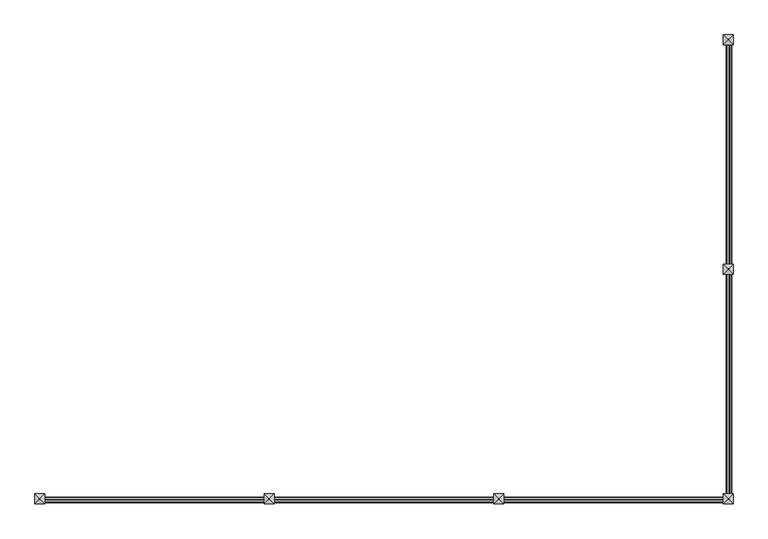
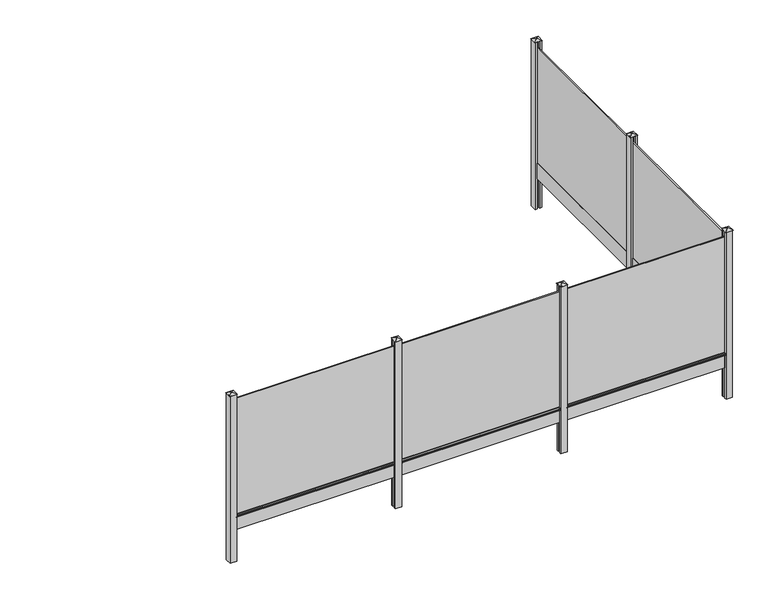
"""IFC4 building model written with IfcOpenShell, lengths in millimetres: railing geometry, Mehat - Railing - Plaque de Soubassement - Classique pour clôture rigide - 252.5x25x3.8/1.9 cm."""

from ifc_helpers import new_model, si_unit, point, frame, frame_2d, origin, origin_with_axes, place, context, project, spatial, polyline, circle_curve, trimmed, segment, composite_curve, outline, extrude, faceted_brep, source, transform, mapped, element, save


def railing_a6160d3a(model_context):
    return source(origin(), model_context, "Body", "SolidModel", [
        extrude(outline(polyline([(154896.2516516, -11002.4943936), (154879.2516516, -11002.4943936), (154879.2516516, -8477.4943936), (154896.2516516, -8477.4943936), (154896.2516516, -11002.4943936)])), frame((0.0, 0.0, 250.0), z_axis=(0.0, 0.0, 1.0), x_axis=(1.0, 0.0, 0.0)), (0.0, 0.0, 1.0), 1900.0),
        extrude(outline(polyline([(154868.7516516, -8477.4943936), (154887.7516516, -8477.4943936), (154906.7516516, -8502.4943936), (154906.7516516, -10977.4943936), (154887.7516516, -11002.4943936), (154868.7516516, -11002.4943936), (154868.7516516, -8477.4943936)])), origin_with_axes(), (0.0, 0.0, 1.0), 250.0),
        extrude(outline(composite_curve([segment(polyline([(210.0, 154906.7516516), (217.1937129, 154928.3327905)]), True, "CONTINUOUS"), segment(trimmed(circle_curve(frame_2d((221.9371294, 154926.7516516)), 5.0), [point((217.1937129, 154928.3327905))], [point((221.9371294, 154931.7516516))], False, "CARTESIAN"), True, "CONTINUOUS"), segment(polyline([(221.9371294, 154931.7516516), (238.0628706, 154931.7516516)]), True, "CONTINUOUS"), segment(trimmed(circle_curve(frame_2d((238.0628706, 154926.7516516)), 5.0), [point((238.0628706, 154931.7516516))], [point((242.8062871, 154928.3327905))], False, "CARTESIAN"), True, "CONTINUOUS"), segment(polyline([(242.8062871, 154928.3327905), (250.0, 154906.7516516), (210.0, 154906.7516516)]), True, "CONTINUOUS")], self_intersect=False)), frame((0.0, -10977.4943936, 0.0), z_axis=(0.0, 1.0, 0.0), x_axis=(0.0, 0.0, 1.0)), (0.0, 0.0, 1.0), 2475.0),
        extrude(outline(polyline([(154937.7516516, -11077.4943936), (154906.7516516, -11077.4943936), (154906.7516516, -11052.4943936), (154868.7516516, -11052.4943936), (154868.7516516, -11077.4943936), (154837.7516516, -11077.4943936), (154837.7516516, -10977.4943936), (154868.7516516, -10977.4943936), (154868.7516516, -11002.4943936), (154906.7516516, -11002.4943936), (154906.7516516, -10977.4943936), (154937.7516516, -10977.4943936), (154937.7516516, -11077.4943936)])), frame((0.0, 0.0, -500.0), z_axis=(0.0, 0.0, 1.0), x_axis=(1.0, 0.0, 0.0)), (0.0, 0.0, 1.0), 2750.0),
        faceted_brep([(154881.3471055, -11021.1443936, 2275.4), (154881.3471055, -11033.8443936, 2275.4), (154894.0471055, -11033.8443936, 2275.4), (154894.0471055, -11021.1443936, 2275.4), (154831.4016516, -10971.1443936, 2250.0), (154944.1016516, -10971.1443936, 2250.0), (154944.1016516, -11083.8443936, 2250.0), (154831.4016516, -11083.8443936, 2250.0)], [[[0, 1, 2, 3]], [[4, 5, 6, 7]], [[4, 0, 3, 5]], [[5, 3, 2, 6]], [[6, 2, 1, 7]], [[7, 1, 0, 4]]]),
        extrude(outline(polyline([(154896.2516516, -13577.4943936), (154879.2516516, -13577.4943936), (154879.2516516, -11052.4943936), (154896.2516516, -11052.4943936), (154896.2516516, -13577.4943936)])), frame((0.0, 0.0, 250.0), z_axis=(0.0, 0.0, 1.0), x_axis=(1.0, 0.0, 0.0)), (0.0, 0.0, 1.0), 1900.0),
        extrude(outline(polyline([(154868.7516516, -11052.4943936), (154887.7516516, -11052.4943936), (154906.7516516, -11077.4943936), (154906.7516516, -13552.4943936), (154887.7516516, -13577.4943936), (154868.7516516, -13577.4943936), (154868.7516516, -11052.4943936)])), origin_with_axes(), (0.0, 0.0, 1.0), 250.0),
        extrude(outline(composite_curve([segment(polyline([(210.0, 154906.7516516), (217.1937129, 154928.3327905)]), True, "CONTINUOUS"), segment(trimmed(circle_curve(frame_2d((221.9371294, 154926.7516516)), 5.0), [point((217.1937129, 154928.3327905))], [point((221.9371294, 154931.7516516))], False, "CARTESIAN"), True, "CONTINUOUS"), segment(polyline([(221.9371294, 154931.7516516), (238.0628706, 154931.7516516)]), True, "CONTINUOUS"), segment(trimmed(circle_curve(frame_2d((238.0628706, 154926.7516516)), 5.0), [point((238.0628706, 154931.7516516))], [point((242.8062871, 154928.3327905))], False, "CARTESIAN"), True, "CONTINUOUS"), segment(polyline([(242.8062871, 154928.3327905), (250.0, 154906.7516516), (210.0, 154906.7516516)]), True, "CONTINUOUS")], self_intersect=False)), frame((0.0, -13552.4943936, 0.0), z_axis=(0.0, 1.0, 0.0), x_axis=(0.0, 0.0, 1.0)), (0.0, 0.0, 1.0), 2475.0),
        extrude(outline(polyline([(152337.7516516, -13610.9943936), (152337.7516516, -13593.9943936), (154862.7516516, -13593.9943936), (154862.7516516, -13610.9943936), (152337.7516516, -13610.9943936)])), frame((0.0, 0.0, 250.0), z_axis=(0.0, 0.0, 1.0), x_axis=(1.0, 0.0, 0.0)), (0.0, 0.0, 1.0), 1900.0),
        extrude(outline(polyline([(154862.7516516, -13583.4943936), (154862.7516516, -13602.4943936), (154837.7516516, -13621.4943936), (152362.7516516, -13621.4943936), (152337.7516516, -13602.4943936), (152337.7516516, -13583.4943936), (154862.7516516, -13583.4943936)])), origin_with_axes(), (0.0, 0.0, 1.0), 250.0),
        extrude(outline(composite_curve([segment(polyline([(-13621.4943936, 210.0), (-13643.0755325, 217.1937129)]), True, "CONTINUOUS"), segment(trimmed(circle_curve(frame_2d((-13641.4943936, 221.9371294)), 5.0), [point((-13643.0755325, 217.1937129))], [point((-13646.4943936, 221.9371294))], False, "CARTESIAN"), True, "CONTINUOUS"), segment(polyline([(-13646.4943936, 221.9371294), (-13646.4943936, 238.0628706)]), True, "CONTINUOUS"), segment(trimmed(circle_curve(frame_2d((-13641.4943936, 238.0628706)), 5.0), [point((-13646.4943936, 238.0628706))], [point((-13643.0755325, 242.8062871))], False, "CARTESIAN"), True, "CONTINUOUS"), segment(polyline([(-13643.0755325, 242.8062871), (-13621.4943936, 250.0), (-13621.4943936, 210.0)]), True, "CONTINUOUS")], self_intersect=False)), frame((152362.7516516, 0.0, 0.0), z_axis=(1.0, 0.0, 0.0), x_axis=(0.0, 1.0, 0.0)), (0.0, 0.0, 1.0), 2475.0),
        extrude(outline(polyline([(152262.7516516, -13652.4943936), (152262.7516516, -13621.4943936), (152287.7516516, -13621.4943936), (152287.7516516, -13583.4943936), (152262.7516516, -13583.4943936), (152262.7516516, -13552.4943936), (152362.7516516, -13552.4943936), (152362.7516516, -13583.4943936), (152337.7516516, -13583.4943936), (152337.7516516, -13621.4943936), (152362.7516516, -13621.4943936), (152362.7516516, -13652.4943936), (152262.7516516, -13652.4943936)])), frame((0.0, 0.0, -500.0), z_axis=(0.0, 0.0, 1.0), x_axis=(1.0, 0.0, 0.0)), (0.0, 0.0, 1.0), 2750.0),
        faceted_brep([(152319.1016516, -13596.0898475, 2275.4), (152306.4016516, -13596.0898475, 2275.4), (152306.4016516, -13608.7898475, 2275.4), (152319.1016516, -13608.7898475, 2275.4), (152369.1016516, -13546.1443936, 2250.0), (152369.1016516, -13658.8443936, 2250.0), (152256.4016516, -13658.8443936, 2250.0), (152256.4016516, -13546.1443936, 2250.0)], [[[0, 1, 2, 3]], [[4, 5, 6, 7]], [[4, 0, 3, 5]], [[5, 3, 2, 6]], [[6, 2, 1, 7]], [[7, 1, 0, 4]]]),
        extrude(outline(polyline([(149762.7516516, -13610.9943936), (149762.7516516, -13593.9943936), (152287.7516516, -13593.9943936), (152287.7516516, -13610.9943936), (149762.7516516, -13610.9943936)])), frame((0.0, 0.0, 250.0), z_axis=(0.0, 0.0, 1.0), x_axis=(1.0, 0.0, 0.0)), (0.0, 0.0, 1.0), 1900.0),
        extrude(outline(polyline([(152287.7516516, -13583.4943936), (152287.7516516, -13602.4943936), (152262.7516516, -13621.4943936), (149787.7516516, -13621.4943936), (149762.7516516, -13602.4943936), (149762.7516516, -13583.4943936), (152287.7516516, -13583.4943936)])), origin_with_axes(), (0.0, 0.0, 1.0), 250.0),
        extrude(outline(composite_curve([segment(polyline([(-13621.4943936, 210.0), (-13643.0755325, 217.1937129)]), True, "CONTINUOUS"), segment(trimmed(circle_curve(frame_2d((-13641.4943936, 221.9371294)), 5.0), [point((-13643.0755325, 217.1937129))], [point((-13646.4943936, 221.9371294))], False, "CARTESIAN"), True, "CONTINUOUS"), segment(polyline([(-13646.4943936, 221.9371294), (-13646.4943936, 238.0628706)]), True, "CONTINUOUS"), segment(trimmed(circle_curve(frame_2d((-13641.4943936, 238.0628706)), 5.0), [point((-13646.4943936, 238.0628706))], [point((-13643.0755325, 242.8062871))], False, "CARTESIAN"), True, "CONTINUOUS"), segment(polyline([(-13643.0755325, 242.8062871), (-13621.4943936, 250.0), (-13621.4943936, 210.0)]), True, "CONTINUOUS")], self_intersect=False)), frame((149787.7516516, 0.0, 0.0), z_axis=(1.0, 0.0, 0.0), x_axis=(0.0, 1.0, 0.0)), (0.0, 0.0, 1.0), 2475.0),
        extrude(outline(polyline([(149687.7516516, -13652.4943936), (149687.7516516, -13621.4943936), (149712.7516516, -13621.4943936), (149712.7516516, -13583.4943936), (149687.7516516, -13583.4943936), (149687.7516516, -13552.4943936), (149787.7516516, -13552.4943936), (149787.7516516, -13583.4943936), (149762.7516516, -13583.4943936), (149762.7516516, -13621.4943936), (149787.7516516, -13621.4943936), (149787.7516516, -13652.4943936), (149687.7516516, -13652.4943936)])), frame((0.0, 0.0, -500.0), z_axis=(0.0, 0.0, 1.0), x_axis=(1.0, 0.0, 0.0)), (0.0, 0.0, 1.0), 2750.0),
        faceted_brep([(149744.1016516, -13596.0898475, 2275.4), (149731.4016516, -13596.0898475, 2275.4), (149731.4016516, -13608.7898475, 2275.4), (149744.1016516, -13608.7898475, 2275.4), (149794.1016516, -13546.1443936, 2250.0), (149794.1016516, -13658.8443936, 2250.0), (149681.4016516, -13658.8443936, 2250.0), (149681.4016516, -13546.1443936, 2250.0)], [[[0, 1, 2, 3]], [[4, 5, 6, 7]], [[4, 0, 3, 5]], [[5, 3, 2, 6]], [[6, 2, 1, 7]], [[7, 1, 0, 4]]]),
        extrude(outline(polyline([(147187.7516516, -13610.9943936), (147187.7516516, -13593.9943936), (149712.7516516, -13593.9943936), (149712.7516516, -13610.9943936), (147187.7516516, -13610.9943936)])), frame((0.0, 0.0, 250.0), z_axis=(0.0, 0.0, 1.0), x_axis=(1.0, 0.0, 0.0)), (0.0, 0.0, 1.0), 1900.0),
        extrude(outline(polyline([(149712.7516516, -13583.4943936), (149712.7516516, -13602.4943936), (149687.7516516, -13621.4943936), (147212.7516516, -13621.4943936), (147187.7516516, -13602.4943936), (147187.7516516, -13583.4943936), (149712.7516516, -13583.4943936)])), origin_with_axes(), (0.0, 0.0, 1.0), 250.0),
        extrude(outline(composite_curve([segment(polyline([(-13621.4943936, 210.0), (-13643.0755325, 217.1937129)]), True, "CONTINUOUS"), segment(trimmed(circle_curve(frame_2d((-13641.4943936, 221.9371294)), 5.0), [point((-13643.0755325, 217.1937129))], [point((-13646.4943936, 221.9371294))], False, "CARTESIAN"), True, "CONTINUOUS"), segment(polyline([(-13646.4943936, 221.9371294), (-13646.4943936, 238.0628706)]), True, "CONTINUOUS"), segment(trimmed(circle_curve(frame_2d((-13641.4943936, 238.0628706)), 5.0), [point((-13646.4943936, 238.0628706))], [point((-13643.0755325, 242.8062871))], False, "CARTESIAN"), True, "CONTINUOUS"), segment(polyline([(-13643.0755325, 242.8062871), (-13621.4943936, 250.0), (-13621.4943936, 210.0)]), True, "CONTINUOUS")], self_intersect=False)), frame((147212.7516516, 0.0, 0.0), z_axis=(1.0, 0.0, 0.0), x_axis=(0.0, 1.0, 0.0)), (0.0, 0.0, 1.0), 2475.0),
        extrude(outline(polyline([(154837.7516516, -13652.4943936), (154837.7516516, -13621.4943936), (154862.7516516, -13621.4943936), (154862.7516516, -13583.4943936), (154837.7516516, -13583.4943936), (154837.7516516, -13552.4943936), (154868.7516516, -13552.4943936), (154868.7516516, -13577.4943936), (154906.7516516, -13577.4943936), (154906.7516516, -13552.4943936), (154937.7516516, -13552.4943936), (154937.7516516, -13652.4943936), (154837.7516516, -13652.4943936)])), frame((0.0, 0.0, -500.0), z_axis=(0.0, 0.0, 1.0), x_axis=(1.0, 0.0, 0.0)), (0.0, 0.0, 1.0), 2750.0),
        faceted_brep([(154894.1016516, -13596.0898475, 2275.4), (154881.4016516, -13596.0898475, 2275.4), (154881.4016516, -13608.7898475, 2275.4), (154894.1016516, -13608.7898475, 2275.4), (154944.1016516, -13546.1443936, 2250.0), (154944.1016516, -13658.8443936, 2250.0), (154831.4016516, -13658.8443936, 2250.0), (154831.4016516, -13546.1443936, 2250.0)], [[[0, 1, 2, 3]], [[4, 5, 6, 7]], [[4, 0, 3, 5]], [[5, 3, 2, 6]], [[6, 2, 1, 7]], [[7, 1, 0, 4]]]),
        extrude(outline(polyline([(154937.7516516, -8502.4943936), (154906.7516516, -8502.4943936), (154906.7516516, -8477.4943936), (154868.7516516, -8477.4943936), (154868.7516516, -8502.4943936), (154837.7516516, -8502.4943936), (154837.7516516, -8402.4943936), (154937.7516516, -8402.4943936), (154937.7516516, -8502.4943936)])), frame((0.0, 0.0, -500.0), z_axis=(0.0, 0.0, 1.0), x_axis=(1.0, 0.0, 0.0)), (0.0, 0.0, 1.0), 2750.0),
        faceted_brep([(154881.3471055, -8446.1443936, 2275.4), (154881.3471055, -8458.8443936, 2275.4), (154894.0471055, -8458.8443936, 2275.4), (154894.0471055, -8446.1443936, 2275.4), (154831.4016516, -8396.1443936, 2250.0), (154944.1016516, -8396.1443936, 2250.0), (154944.1016516, -8508.8443936, 2250.0), (154831.4016516, -8508.8443936, 2250.0)], [[[0, 1, 2, 3]], [[4, 5, 6, 7]], [[4, 0, 3, 5]], [[5, 3, 2, 6]], [[6, 2, 1, 7]], [[7, 1, 0, 4]]]),
        extrude(outline(polyline([(147112.7516516, -13652.4943936), (147112.7516516, -13552.4943936), (147212.7516516, -13552.4943936), (147212.7516516, -13583.4943936), (147187.7516516, -13583.4943936), (147187.7516516, -13621.4943936), (147212.7516516, -13621.4943936), (147212.7516516, -13652.4943936), (147112.7516516, -13652.4943936)])), frame((0.0, 0.0, -500.0), z_axis=(0.0, 0.0, 1.0), x_axis=(1.0, 0.0, 0.0)), (0.0, 0.0, 1.0), 2750.0),
        faceted_brep([(147169.1016516, -13596.0898475, 2275.4), (147156.4016516, -13596.0898475, 2275.4), (147156.4016516, -13608.7898475, 2275.4), (147169.1016516, -13608.7898475, 2275.4), (147219.1016516, -13546.1443936, 2250.0), (147219.1016516, -13658.8443936, 2250.0), (147106.4016516, -13658.8443936, 2250.0), (147106.4016516, -13546.1443936, 2250.0)], [[[0, 1, 2, 3]], [[4, 5, 6, 7]], [[4, 0, 3, 5]], [[5, 3, 2, 6]], [[6, 2, 1, 7]], [[7, 1, 0, 4]]]),
    ])


if __name__ == "__main__":
    model = new_model("IFC4")
    model_context = context("Model", 3, world=origin())
    ifc_project = project(units=[si_unit("LENGTHUNIT", "METRE", prefix="MILLI")], contexts=[model_context])
    site = spatial("IfcSite", under=ifc_project)
    building = spatial("IfcBuilding", under=site)
    placement = place(None, origin())
    railing_shape = railing_a6160d3a(model_context)
    element("IfcRailing", 1, ObjectType="Mehat - Railing - Plaque de Soubassement - Classique pour clôture rigide - 252.5x25x3.8/1.9 cm", at=placement, inside=building, context=model_context, shape_type="MappedRepresentation", body=[
        mapped(railing_shape, transform((0.0, 0.0, 0.0), x_axis=(1.0, 0.0, 0.0), y_axis=(0.0, 1.0, 0.0), z_axis=(0.0, 0.0, 1.0))),
    ])
    save(model, "model.ifc")
